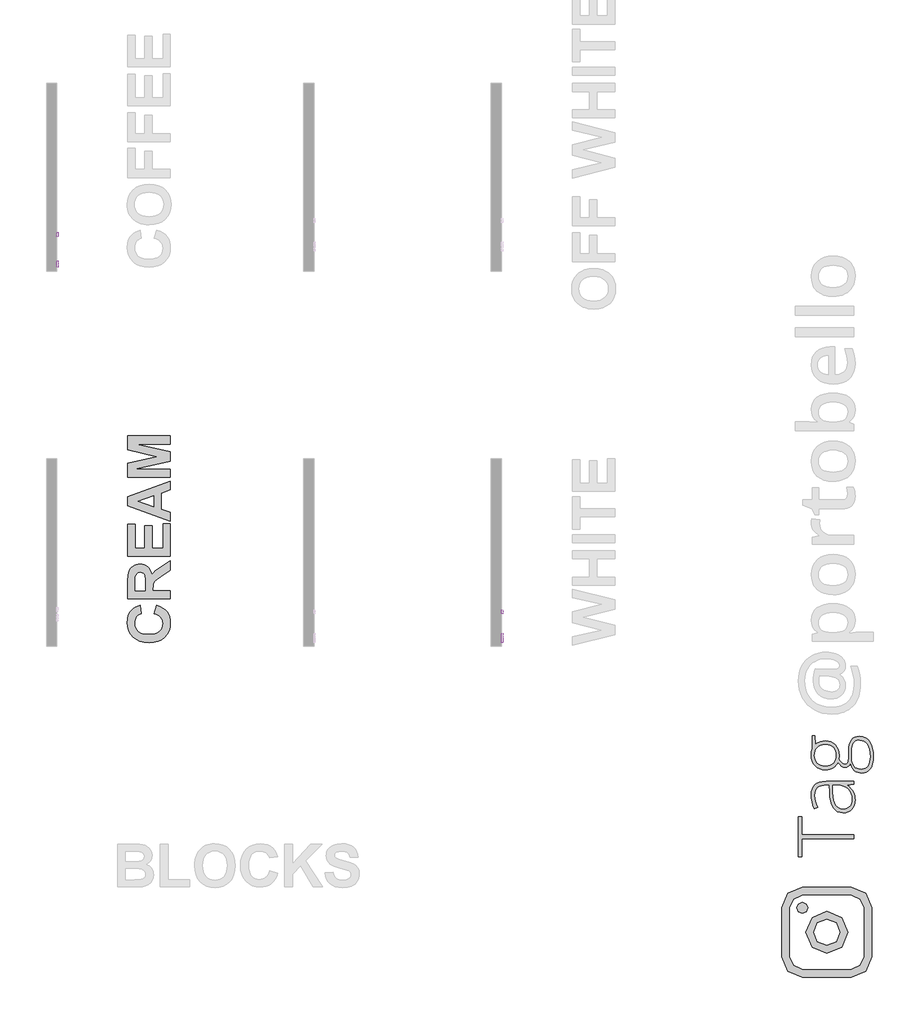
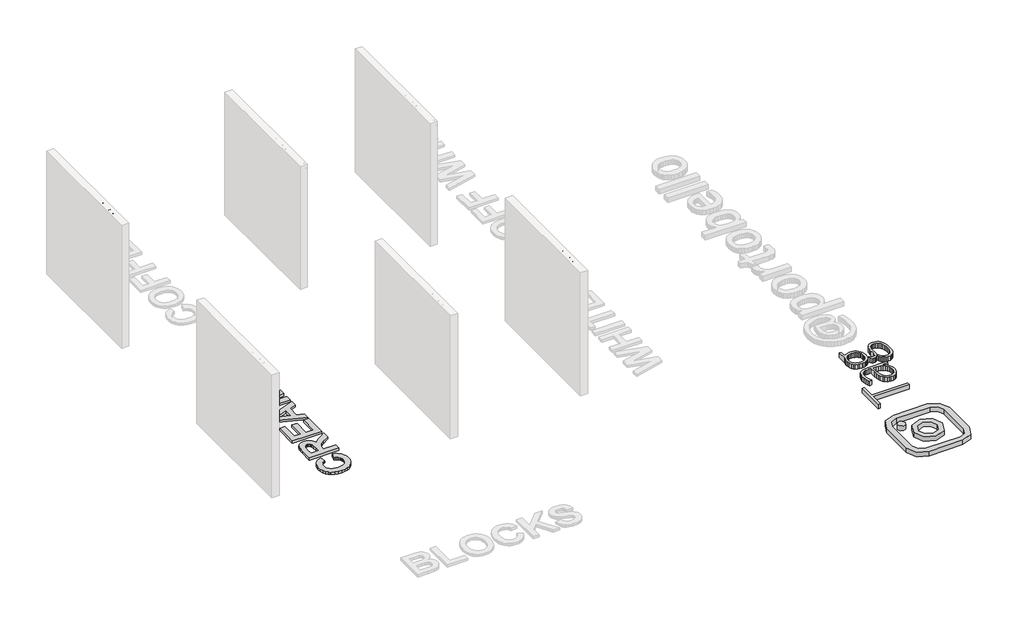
# One storey, part 4 of 8: 7 proxies.
"""IFC4 building model written with IfcOpenShell, lengths in millimetres."""

from ifc_helpers import new_model, si_unit, frame, origin, origin_with_axes, place, context, project, spatial, polyline, outline, extrude, transform, mapped, element, save
from components import generic_models_d67f6705

model = new_model("IFC4")

# Units and contexts
model_context = context("Model", 3, world=origin())
ifc_project = project(units=[si_unit("LENGTHUNIT", "METRE", prefix="MILLI")], contexts=[model_context])

# Site, building, storey
site = spatial("IfcSite", under=ifc_project)
building = spatial("IfcBuilding", under=site)
storey = spatial("IfcBuildingStorey", under=building, Name="PORTOBELLO - SHOWROOM", Elevation=0.0)

# Proxies
placement = place(None, origin())
generic_models_shape = generic_models_d67f6705(model_context)
element("IfcBuildingElementProxy", 1, Name="Blks_Instagram1 : Único 2", ObjectType="Blks_Instagram1 : Único 2", at=placement, inside=storey, context=model_context, shape_type="MappedRepresentation", body=[
    mapped(generic_models_shape, transform((28098.7687221, -13341.2406298, 0.0), x_axis=(-1.0, 0.0, 0.0), y_axis=(0.0, -1.0, 0.0), z_axis=(0.0, 0.0, 1.0))),
])
element("IfcBuildingElementProxy", 2, Name="10mm Arial", ObjectType="10mm Arial", at=placement, inside=storey, context=model_context, shape_type="SweptSolid", body=[
    extrude(outline(polyline([(-3694.2781927, 2584.5399034), (-3681.721154, 2581.3025418), (-3687.5152954, 2566.6700355), (-3696.608112, 2555.9799978), (-3708.5520141, 2549.4408954), (-3722.899412, 2547.2611945), (-3737.4644733, 2548.9105322), (-3749.0312964, 2553.858545), (-3757.8972524, 2561.9335548), (-3764.3597128, 2572.9638833), (-3769.6204253, 2599.8192689), (-3768.133569, 2614.4671037), (-3763.6729998, 2627.116113), (-3756.4717097, 2637.3646922), (-3746.7626907, 2644.8112369), (-3735.2479843, 2649.3453825), (-3722.6296318, 2650.8567644), (-3708.8616482, 2648.9008584), (-3697.4787661, 2643.0331406), (-3688.8366049, 2633.6153615), (-3683.2907838, 2621.0092718), (-3695.8478226, 2618.0171649), (-3706.1485184, 2633.455946), (-3723.1201412, 2638.2997256), (-3742.7650397, 2632.9286485), (-3753.8628132, 2618.5076743), (-3757.0633866, 2599.8437944), (-3753.274202, 2578.2123331), (-3741.4774527, 2564.3922328), (-3724.1502107, 2559.8182333), (-3713.6686396, 2561.3756004), (-3704.9345079, 2566.0477018), (-3698.3402231, 2573.7854864), (-3694.2781927, 2584.5399034)])), frame((17014.625413, 0.0, 0.0), z_axis=(1.0, 0.0, 0.0), x_axis=(0.0, 1.0, 0.0)), (0.0, 0.0, 1.0), 20.0),
    extrude(outline(polyline([(-3669.1641152, 2585.7171258), (-3666.4479198, 2603.5042202), (-3658.2993336, 2616.0060767), (-3648.2316297, 2622.1313119), (-3636.177363, 2624.173057), (-3622.9857278, 2621.6867878), (-3612.4489743, 2614.2279804), (-3605.5419898, 2602.3852458), (-3603.2396617, 2586.7471954), (-3607.3108891, 2564.4044955), (-3619.1689521, 2551.7616176), (-3636.177363, 2547.2611945), (-3649.5284137, 2549.7382666), (-3660.0529045, 2557.1694829), (-3666.8863125, 2569.2605378), (-3669.1641152, 2585.7171258)]), holes=[polyline([(-3656.6070764, 2585.7416512), (-3655.1539425, 2574.3771633), (-3650.7945409, 2566.2806937), (-3644.2339787, 2561.4338484), (-3636.177363, 2559.8182333), (-3628.1575355, 2561.4430455), (-3621.609236, 2566.3174819), (-3617.2498343, 2574.5212504), (-3615.7967004, 2586.1340587), (-3617.2590314, 2597.1674529), (-3621.6460242, 2605.1535578), (-3628.2035207, 2610.0004031), (-3636.177363, 2611.6160182), (-3644.2339787, 2610.0065345), (-3650.7945409, 2605.1780833), (-3655.1539425, 2597.1000078), (-3656.6070764, 2585.7416512)])]), frame((17014.625413, 0.0, 0.0), z_axis=(1.0, 0.0, 0.0), x_axis=(0.0, 1.0, 0.0)), (0.0, 0.0, 1.0), 20.0),
    extrude(outline(polyline([(-3585.9737334, 2548.8308244), (-3585.9737334, 2610.0463884), (-3596.9611423, 2610.0463884), (-3596.9611423, 2622.6034272), (-3585.9737334, 2622.6034272), (-3585.9737334, 2630.0346435), (-3584.6493582, 2640.5070176), (-3578.223686, 2647.9872848), (-3565.5685454, 2650.8567644), (-3554.1151526, 2649.4833383), (-3555.9545625, 2637.7111144), (-3563.1895751, 2638.2997256), (-3571.099038, 2636.215061), (-3573.4166946, 2628.4404881), (-3573.4166946, 2622.6034272), (-3559.290026, 2622.6034272), (-3559.290026, 2610.0463884), (-3573.4166946, 2610.0463884), (-3573.4166946, 2548.8308244), (-3585.9737334, 2548.8308244)])), frame((17014.625413, 0.0, 0.0), z_axis=(1.0, 0.0, 0.0), x_axis=(0.0, 1.0, 0.0)), (0.0, 0.0, 1.0), 20.0),
    extrude(outline(polyline([(-3545.1633574, 2548.8308244), (-3545.1633574, 2610.0463884), (-3556.1507663, 2610.0463884), (-3556.1507663, 2622.6034272), (-3545.1633574, 2622.6034272), (-3545.1633574, 2630.0346435), (-3543.8389822, 2640.5070176), (-3537.41331, 2647.9872848), (-3524.7581694, 2650.8567644), (-3513.3047766, 2649.4833383), (-3515.1441866, 2637.7111144), (-3522.3791991, 2638.2997256), (-3530.288662, 2636.215061), (-3532.6063186, 2628.4404881), (-3532.6063186, 2622.6034272), (-3518.47965, 2622.6034272), (-3518.47965, 2610.0463884), (-3532.6063186, 2610.0463884), (-3532.6063186, 2548.8308244), (-3545.1633574, 2548.8308244)])), frame((17014.625413, 0.0, 0.0), z_axis=(1.0, 0.0, 0.0), x_axis=(0.0, 1.0, 0.0)), (0.0, 0.0, 1.0), 20.0),
    extrude(outline(polyline([(-3455.8416089, 2570.8056422), (-3443.5298248, 2569.2360124), (-3447.9658685, 2559.9592547), (-3455.0445313, 2553.0246791), (-3464.6063975, 2548.7020657), (-3476.4920516, 2547.2611945), (-3491.2257255, 2549.7474637), (-3502.5626223, 2557.2062711), (-3509.7915035, 2569.1532389), (-3512.2011306, 2585.1039891), (-3509.7669781, 2601.5912339), (-3502.4645205, 2613.9214121), (-3491.2809078, 2621.6101458), (-3477.2032901, 2624.173057), (-3463.5640651, 2621.6162771), (-3452.665561, 2613.9459375), (-3445.5194533, 2601.6402848), (-3443.1374174, 2585.1775655), (-3443.2109938, 2581.7930512), (-3499.6440918, 2581.7930512), (-3497.4705224, 2572.3936662), (-3492.421342, 2565.483616), (-3485.1342128, 2561.234579), (-3476.2467969, 2559.8182333), (-3463.9350128, 2562.4424582), (-3455.8416089, 2570.8056422)]), holes=[polyline([(-3499.6440918, 2594.3500899), (-3455.6944561, 2594.3500899), (-3460.7221767, 2605.7299063), (-3468.0430284, 2610.1444902), (-3477.252341, 2611.6160182), (-3492.7156476, 2606.9193914), (-3497.580887, 2601.4287526), (-3499.6440918, 2594.3500899)])]), frame((17014.625413, 0.0, 0.0), z_axis=(1.0, 0.0, 0.0), x_axis=(0.0, 1.0, 0.0)), (0.0, 0.0, 1.0), 20.0),
    extrude(outline(polyline([(-3378.9297465, 2570.8056422), (-3366.6179624, 2569.2360124), (-3371.0540061, 2559.9592547), (-3378.1326688, 2553.0246791), (-3387.694535, 2548.7020657), (-3399.5801891, 2547.2611945), (-3414.313863, 2549.7474637), (-3425.6507599, 2557.2062711), (-3432.8796411, 2569.1532389), (-3435.2892681, 2585.1039891), (-3432.8551156, 2601.5912339), (-3425.552658, 2613.9214121), (-3414.3690453, 2621.6101458), (-3400.2914277, 2624.173057), (-3386.6522027, 2621.6162771), (-3375.7536986, 2613.9459375), (-3368.6075908, 2601.6402848), (-3366.2255549, 2585.1775655), (-3366.2991313, 2581.7930512), (-3422.7322294, 2581.7930512), (-3420.5586599, 2572.3936662), (-3415.5094795, 2565.483616), (-3408.2223503, 2561.234579), (-3399.3349345, 2559.8182333), (-3387.0231504, 2562.4424582), (-3378.9297465, 2570.8056422)]), holes=[polyline([(-3422.7322294, 2594.3500899), (-3378.7825937, 2594.3500899), (-3383.8103143, 2605.7299063), (-3391.131166, 2610.1444902), (-3400.3404786, 2611.6160182), (-3415.8037851, 2606.9193914), (-3420.6690245, 2601.4287526), (-3422.7322294, 2594.3500899)])]), frame((17014.625413, 0.0, 0.0), z_axis=(1.0, 0.0, 0.0), x_axis=(0.0, 1.0, 0.0)), (0.0, 0.0, 1.0), 20.0),
])
element("IfcBuildingElementProxy", 3, Name="10mm Arial", ObjectType="10mm Arial", at=placement, inside=storey, context=model_context, shape_type="SweptSolid", body=[
    extrude(outline(polyline([(-9146.934369, 2548.8308244), (-9174.3293149, 2649.2871345), (-9161.3798687, 2649.2871345), (-9145.4873665, 2583.2645791), (-9140.5822732, 2562.8839166), (-9135.3338234, 2580.9101344), (-9115.4191447, 2649.2871345), (-9096.7552648, 2649.2871345), (-9082.2852397, 2599.7211671), (-9071.51856, 2562.8839166), (-9066.7606195, 2582.6759679), (-9050.7209645, 2649.2871345), (-9037.7715183, 2649.2871345), (-9065.1909897, 2548.8308244), (-9078.6064197, 2548.8308244), (-9102.6904277, 2626.331298), (-9106.0504166, 2637.1470287), (-9109.8273384, 2624.1240061), (-9131.7776308, 2548.8308244), (-9146.934369, 2548.8308244)])), frame((23414.625413, 0.0, 0.0), z_axis=(1.0, 0.0, 0.0), x_axis=(0.0, 1.0, 0.0)), (0.0, 0.0, 1.0), 20.0),
    extrude(outline(polyline([(-9026.7841094, 2548.8308244), (-9026.7841094, 2649.2871345), (-9014.2270706, 2649.2871345), (-9014.2270706, 2612.3517822), (-9004.4352781, 2621.2177383), (-8992.3748801, 2624.173057), (-8978.2727369, 2620.9479582), (-8969.7133492, 2612.0329512), (-8967.1381752, 2595.5273123), (-8967.1381752, 2548.8308244), (-8979.695214, 2548.8308244), (-8979.695214, 2594.2274626), (-8983.692865, 2607.4712144), (-8995.0236304, 2611.6160182), (-9005.3120636, 2608.8201151), (-9012.1791941, 2601.241746), (-9014.2270706, 2588.0225196), (-9014.2270706, 2548.8308244), (-9026.7841094, 2548.8308244)])), frame((23414.625413, 0.0, 0.0), z_axis=(1.0, 0.0, 0.0), x_axis=(0.0, 1.0, 0.0)), (0.0, 0.0, 1.0), 20.0),
    extrude(outline(polyline([(23434.625413, -8937.3152081), (23434.625413, -8949.8722469), (23414.625413, -8949.8722469), (23414.625413, -8937.3152081), (23434.625413, -8937.3152081)])), frame((0.0, 0.0, 2548.8308244), z_axis=(0.0, 0.0, 1.0), x_axis=(1.0, 0.0, 0.0)), (0.0, 0.0, 1.0), 73.7726028),
    extrude(outline(polyline([(23434.625413, -8937.3152081), (23434.625413, -8949.8722469), (23414.625413, -8949.8722469), (23414.625413, -8937.3152081), (23434.625413, -8937.3152081)])), frame((0.0, 0.0, 2636.7300958), z_axis=(0.0, 0.0, 1.0), x_axis=(1.0, 0.0, 0.0)), (0.0, 0.0, 1.0), 12.5570388),
    extrude(outline(polyline([(-8891.7959426, 2559.3031985), (-8890.2263127, 2548.4629424), (-8899.6195664, 2547.2611945), (-8910.1409914, 2549.3458592), (-8915.3894412, 2554.8150382), (-8916.9100201, 2569.0643341), (-8916.9100201, 2610.0463884), (-8926.3277992, 2610.0463884), (-8926.3277992, 2622.6034272), (-8916.9100201, 2622.6034272), (-8916.9100201, 2640.531543), (-8904.3529814, 2647.9137084), (-8904.3529814, 2622.6034272), (-8891.7959426, 2622.6034272), (-8891.7959426, 2610.0463884), (-8904.3529814, 2610.0463884), (-8904.3529814, 2569.4322161), (-8903.6907938, 2562.957493), (-8901.5448155, 2560.6643619), (-8897.2651216, 2559.8182333), (-8891.7959426, 2559.3031985)])), frame((23414.625413, 0.0, 0.0), z_axis=(1.0, 0.0, 0.0), x_axis=(0.0, 1.0, 0.0)), (0.0, 0.0, 1.0), 20.0),
    extrude(outline(polyline([(-8827.5882717, 2570.8056422), (-8815.2764876, 2569.2360124), (-8819.7125313, 2559.9592547), (-8826.791194, 2553.0246791), (-8836.3530602, 2548.7020657), (-8848.2387144, 2547.2611945), (-8862.9723883, 2549.7474637), (-8874.3092851, 2557.2062711), (-8881.5381663, 2569.1532389), (-8883.9477934, 2585.1039891), (-8881.5136408, 2601.5912339), (-8874.2111832, 2613.9214121), (-8863.0275706, 2621.6101458), (-8848.9499529, 2624.173057), (-8835.3107279, 2621.6162771), (-8824.4122238, 2613.9459375), (-8817.2661161, 2601.6402848), (-8814.8840801, 2585.1775655), (-8814.9576565, 2581.7930512), (-8871.3907546, 2581.7930512), (-8869.2171851, 2572.3936662), (-8864.1680048, 2565.483616), (-8856.8808756, 2561.234579), (-8847.9934597, 2559.8182333), (-8835.6816756, 2562.4424582), (-8827.5882717, 2570.8056422)]), holes=[polyline([(-8871.3907546, 2594.3500899), (-8827.4411189, 2594.3500899), (-8832.4688395, 2605.7299063), (-8839.7896912, 2610.1444902), (-8848.9990038, 2611.6160182), (-8864.4623103, 2606.9193914), (-8869.3275497, 2601.4287526), (-8871.3907546, 2594.3500899)])]), frame((23414.625413, 0.0, 0.0), z_axis=(1.0, 0.0, 0.0), x_axis=(0.0, 1.0, 0.0)), (0.0, 0.0, 1.0), 20.0),
])
element("IfcBuildingElementProxy", 4, Name="10mm Arial Narrow", ObjectType="10mm Arial Narrow", at=placement, inside=storey, context=model_context, shape_type="SweptSolid", body=[
    extrude(outline(polyline([(-3330.3882863, 2548.8308244), (-3330.3882863, 2649.5494281), (-3299.0914016, 2649.5494281), (-3282.7957001, 2647.6711074), (-3271.322714, 2638.1906642), (-3267.0330356, 2621.1715554), (-3268.819344, 2609.0957299), (-3274.1782692, 2599.4693361), (-3283.922058, 2593.1680777), (-3298.8629572, 2591.0676582), (-3320.6413247, 2591.0676582), (-3320.6413247, 2548.8308244), (-3330.3882863, 2548.8308244)]), holes=[polyline([(-3320.6413247, 2602.4391135), (-3297.6699697, 2602.4391135), (-3281.8057743, 2606.9699277), (-3276.7799972, 2620.6385184), (-3279.2548117, 2630.8042949), (-3285.2324405, 2636.6042447), (-3297.8984142, 2638.1779729), (-3320.6413247, 2638.1779729), (-3320.6413247, 2602.4391135)])]), frame((17014.625413, 0.0, 0.0), z_axis=(1.0, 0.0, 0.0), x_axis=(0.0, 1.0, 0.0)), (0.0, 0.0, 1.0), 20.0),
    extrude(outline(polyline([(-3258.9105675, 2585.3819306), (-3256.9560987, 2601.9727061), (-3251.092692, 2613.9247909), (-3242.2341253, 2621.1493455), (-3231.2941762, 2623.5575304), (-3220.4811406, 2621.1493455), (-3211.5971912, 2613.9247909), (-3205.6576364, 2602.1630765), (-3203.6777848, 2586.143412), (-3205.6227352, 2568.9815254), (-3211.4575863, 2556.8390702), (-3220.3066345, 2549.6145156), (-3231.2941762, 2547.2063308), (-3242.1548044, 2549.6208613), (-3251.0292353, 2556.8644529), (-3256.9402345, 2568.8228834), (-3258.9105675, 2585.3819306)]), holes=[polyline([(-3249.1636059, 2585.4073133), (-3247.859569, 2572.8555619), (-3243.9474584, 2563.9843038), (-3238.1062617, 2558.7110453), (-3231.0149663, 2556.9532924), (-3224.2948932, 2558.7269095), (-3218.6028199, 2564.0477606), (-3214.7192648, 2572.9348829), (-3213.4247465, 2585.4073133), (-3214.7287833, 2597.9209906), (-3218.6408939, 2606.7795573), (-3224.4820907, 2612.0528159), (-3231.573386, 2613.8105687), (-3238.3410518, 2612.0432974), (-3244.0236066, 2606.7414833), (-3247.8786061, 2597.873398), (-3249.1636059, 2585.4073133)])]), frame((17014.625413, 0.0, 0.0), z_axis=(1.0, 0.0, 0.0), x_axis=(0.0, 1.0, 0.0)), (0.0, 0.0, 1.0), 20.0),
    extrude(outline(polyline([(-3132.200066, 2556.9532924), (-3130.5755724, 2547.2063308), (-3137.9365591, 2547.2063308), (-3146.2113234, 2549.3257873), (-3150.5263846, 2555.1257371), (-3151.6939893, 2569.7715623), (-3151.6939893, 2612.1860751), (-3159.8164574, 2612.1860751), (-3159.8164574, 2615.4350624), (-3161.440951, 2610.5615815), (-3169.0049994, 2612.1860751), (-3175.084159, 2609.8635569), (-3178.9550227, 2603.3782738), (-3180.9348743, 2587.9709673), (-3180.9348743, 2548.8308244), (-3190.681836, 2548.8308244), (-3190.681836, 2621.9330368), (-3180.9348743, 2621.9330368), (-3180.9348743, 2612.2368406), (-3174.690727, 2621.3238517), (-3168.2942834, 2623.5575304), (-3159.8164574, 2621.9330368), (-3151.6939893, 2621.9330368), (-3151.6939893, 2638.1779729), (-3141.9470277, 2646.3004409), (-3141.9470277, 2621.9330368), (-3132.200066, 2621.9330368), (-3132.200066, 2612.1860751), (-3141.9470277, 2612.1860751), (-3141.9470277, 2567.5378836), (-3141.0840155, 2559.5423291), (-3136.4643618, 2556.9532924), (-3132.200066, 2556.9532924)])), frame((17014.625413, 0.0, 0.0), z_axis=(1.0, 0.0, 0.0), x_axis=(0.0, 1.0, 0.0)), (0.0, 0.0, 1.0), 20.0),
    extrude(outline(polyline([(-3125.7020916, 2585.3819306), (-3123.7476227, 2601.9727061), (-3117.8842161, 2613.9247909), (-3109.0256494, 2621.1493455), (-3098.0857003, 2623.5575304), (-3087.2726647, 2621.1493455), (-3078.3887152, 2613.9247909), (-3072.4491605, 2602.1630765), (-3070.4693089, 2586.143412), (-3072.4142593, 2568.9815254), (-3078.2491103, 2556.8390702), (-3087.0981585, 2549.6145156), (-3098.0857003, 2547.2063308), (-3108.9463284, 2549.6208613), (-3117.8207593, 2556.8644529), (-3123.7317585, 2568.8228834), (-3125.7020916, 2585.3819306)]), holes=[polyline([(-3115.95513, 2585.4073133), (-3114.6510931, 2572.8555619), (-3110.7389825, 2563.9843038), (-3104.8977858, 2558.7110453), (-3097.8064904, 2556.9532924), (-3091.0864172, 2558.7269095), (-3085.3943439, 2564.0477606), (-3081.5107889, 2572.9348829), (-3080.2162706, 2585.4073133), (-3081.5203074, 2597.9209906), (-3085.432418, 2606.7795573), (-3091.2736148, 2612.0528159), (-3098.3649101, 2613.8105687), (-3105.1325759, 2612.0432974), (-3110.8151306, 2606.7414833), (-3114.6701301, 2597.873398), (-3115.95513, 2585.4073133)])]), frame((17014.625413, 0.0, 0.0), z_axis=(1.0, 0.0, 0.0), x_axis=(0.0, 1.0, 0.0)), (0.0, 0.0, 1.0), 20.0),
    extrude(outline(polyline([(-3047.7263984, 2548.8308244), (-3057.47336, 2548.8308244), (-3057.47336, 2649.5494281), (-3047.7263984, 2649.5494281), (-3047.7263984, 2614.140544), (-3040.3273376, 2621.2223208), (-3031.1261043, 2623.5575304), (-3018.2443776, 2619.3566915), (-3008.9669962, 2606.6272611), (-3005.4895645, 2585.9403503), (-3007.4218235, 2569.4860068), (-3013.2186005, 2557.2832677), (-3021.5917229, 2549.725565), (-3031.2530179, 2547.2063308), (-3040.5938561, 2549.8207502), (-3047.7263984, 2557.5878602), (-3047.7263984, 2548.8308244)]), holes=[polyline([(-3047.7263984, 2585.9403503), (-3045.6450159, 2568.692797), (-3039.7562266, 2559.9611439), (-3031.3037833, 2556.9532924), (-3025.3610557, 2558.7427737), (-3020.1226984, 2564.1112174), (-3015.2365262, 2585.5342269), (-3019.9450194, 2606.9699277), (-3025.1897224, 2612.1004085), (-3031.506845, 2613.8105687), (-3037.4844738, 2612.0210875), (-3042.7767694, 2606.6526438), (-3047.7263984, 2585.9403503)])]), frame((17014.625413, 0.0, 0.0), z_axis=(1.0, 0.0, 0.0), x_axis=(0.0, 1.0, 0.0)), (0.0, 0.0, 1.0), 20.0),
    extrude(outline(polyline([(-2953.5057691, 2571.5737349), (-2943.7588074, 2569.9492413), (-2947.4583378, 2560.0626747), (-2953.2773246, 2552.9428238), (-2960.9809779, 2548.640454), (-2970.3345075, 2547.2063308), (-2981.9280615, 2549.6208613), (-2991.0721838, 2556.8644529), (-2997.0117385, 2568.6705872), (-2998.9915901, 2584.7727455), (-2997.00222, 2601.4396692), (-2991.0341097, 2613.6201984), (-2982.0200739, 2621.0731974), (-2970.8929272, 2623.5575304), (-2960.209978, 2621.1588641), (-2951.4624607, 2613.962865), (-2945.6276096, 2602.2233604), (-2943.6826593, 2586.1941774), (-2943.7588074, 2582.9451902), (-2989.2446285, 2582.9451902), (-2983.2416169, 2563.5020323), (-2977.3115807, 2558.5904774), (-2970.207594, 2556.9532924), (-2960.0291262, 2560.608403), (-2953.5057691, 2571.5737349)]), holes=[polyline([(-2988.5846779, 2592.6921518), (-2953.5057691, 2592.6921518), (-2957.7700648, 2606.9572363), (-2963.5953973, 2612.0972356), (-2970.8167791, 2613.8105687), (-2983.0258639, 2608.0994584), (-2988.5846779, 2592.6921518)])]), frame((17014.625413, 0.0, 0.0), z_axis=(1.0, 0.0, 0.0), x_axis=(0.0, 1.0, 0.0)), (0.0, 0.0, 1.0), 20.0),
    extrude(outline(polyline([(17034.625413, -2921.0158969), (17034.625413, -2930.7628585), (17014.625413, -2930.7628585), (17014.625413, -2921.0158969), (17034.625413, -2921.0158969)])), frame((0.0, 0.0, 2548.8308244), z_axis=(0.0, 0.0, 1.0), x_axis=(1.0, 0.0, 0.0)), (0.0, 0.0, 1.0), 100.7186038),
    extrude(outline(polyline([(17034.625413, -2895.0239991), (17034.625413, -2904.7709608), (17014.625413, -2904.7709608), (17014.625413, -2895.0239991), (17034.625413, -2895.0239991)])), frame((0.0, 0.0, 2548.8308244), z_axis=(0.0, 0.0, 1.0), x_axis=(1.0, 0.0, 0.0)), (0.0, 0.0, 1.0), 100.7186038),
    extrude(outline(polyline([(-2883.6525439, 2585.3819306), (-2881.698075, 2601.9727061), (-2875.8346684, 2613.9247909), (-2866.9761017, 2621.1493455), (-2856.0361525, 2623.5575304), (-2845.2231169, 2621.1493455), (-2836.3391675, 2613.9247909), (-2830.3996128, 2602.1630765), (-2828.4197612, 2586.143412), (-2830.3647115, 2568.9815254), (-2836.1995626, 2556.8390702), (-2845.0486108, 2549.6145156), (-2856.0361525, 2547.2063308), (-2866.8967807, 2549.6208613), (-2875.7712116, 2556.8644529), (-2881.6822108, 2568.8228834), (-2883.6525439, 2585.3819306)]), holes=[polyline([(-2873.9055822, 2585.4073133), (-2872.6015454, 2572.8555619), (-2868.6894348, 2563.9843038), (-2862.848238, 2558.7110453), (-2855.7569427, 2556.9532924), (-2849.0368695, 2558.7269095), (-2843.3447962, 2564.0477606), (-2839.4612412, 2572.9348829), (-2838.1667228, 2585.4073133), (-2839.4707597, 2597.9209906), (-2843.3828703, 2606.7795573), (-2849.224067, 2612.0528159), (-2856.3153624, 2613.8105687), (-2863.0830281, 2612.0432974), (-2868.7655829, 2606.7414833), (-2872.6205824, 2597.873398), (-2873.9055822, 2585.4073133)])]), frame((17014.625413, 0.0, 0.0), z_axis=(1.0, 0.0, 0.0), x_axis=(0.0, 1.0, 0.0)), (0.0, 0.0, 1.0), 20.0),
])
element("IfcBuildingElementProxy", 5, Name="10mm Arial Narrow", ObjectType="10mm Arial Narrow", at=placement, inside=storey, context=model_context, shape_type="SweptSolid", body=[
    extrude(outline(polyline([(-8760.3882863, 2548.8308244), (-8760.3882863, 2649.5494281), (-8729.0914016, 2649.5494281), (-8712.7957001, 2647.6711074), (-8701.322714, 2638.1906642), (-8697.0330356, 2621.1715554), (-8698.819344, 2609.0957299), (-8704.1782692, 2599.4693361), (-8713.922058, 2593.1680777), (-8728.8629572, 2591.0676582), (-8750.6413247, 2591.0676582), (-8750.6413247, 2548.8308244), (-8760.3882863, 2548.8308244)]), holes=[polyline([(-8750.6413247, 2602.4391135), (-8727.6699697, 2602.4391135), (-8711.8057743, 2606.9699277), (-8706.7799972, 2620.6385184), (-8709.2548117, 2630.8042949), (-8715.2324405, 2636.6042447), (-8727.8984142, 2638.1779729), (-8750.6413247, 2638.1779729), (-8750.6413247, 2602.4391135)])]), frame((23414.625413, 0.0, 0.0), z_axis=(1.0, 0.0, 0.0), x_axis=(0.0, 1.0, 0.0)), (0.0, 0.0, 1.0), 20.0),
    extrude(outline(polyline([(-8688.9105675, 2585.3819306), (-8686.9560987, 2601.9727061), (-8681.092692, 2613.9247909), (-8672.2341253, 2621.1493455), (-8661.2941762, 2623.5575304), (-8650.4811406, 2621.1493455), (-8641.5971912, 2613.9247909), (-8635.6576364, 2602.1630765), (-8633.6777848, 2586.143412), (-8635.6227352, 2568.9815254), (-8641.4575863, 2556.8390702), (-8650.3066345, 2549.6145156), (-8661.2941762, 2547.2063308), (-8672.1548044, 2549.6208613), (-8681.0292353, 2556.8644529), (-8686.9402345, 2568.8228834), (-8688.9105675, 2585.3819306)]), holes=[polyline([(-8679.1636059, 2585.4073133), (-8677.859569, 2572.8555619), (-8673.9474584, 2563.9843038), (-8668.1062617, 2558.7110453), (-8661.0149663, 2556.9532924), (-8654.2948932, 2558.7269095), (-8648.6028199, 2564.0477606), (-8644.7192648, 2572.9348829), (-8643.4247465, 2585.4073133), (-8644.7287833, 2597.9209906), (-8648.6408939, 2606.7795573), (-8654.4820907, 2612.0528159), (-8661.573386, 2613.8105687), (-8668.3410518, 2612.0432974), (-8674.0236066, 2606.7414833), (-8677.8786061, 2597.873398), (-8679.1636059, 2585.4073133)])]), frame((23414.625413, 0.0, 0.0), z_axis=(1.0, 0.0, 0.0), x_axis=(0.0, 1.0, 0.0)), (0.0, 0.0, 1.0), 20.0),
    extrude(outline(polyline([(-8562.200066, 2556.9532924), (-8560.5755724, 2547.2063308), (-8567.9365591, 2547.2063308), (-8576.2113234, 2549.3257873), (-8580.5263846, 2555.1257371), (-8581.6939893, 2569.7715623), (-8581.6939893, 2612.1860751), (-8589.8164574, 2612.1860751), (-8589.8164574, 2615.4350624), (-8591.440951, 2610.5615815), (-8599.0049994, 2612.1860751), (-8605.084159, 2609.8635569), (-8608.9550227, 2603.3782738), (-8610.9348743, 2587.9709673), (-8610.9348743, 2548.8308244), (-8620.681836, 2548.8308244), (-8620.681836, 2621.9330368), (-8610.9348743, 2621.9330368), (-8610.9348743, 2612.2368406), (-8604.690727, 2621.3238517), (-8598.2942834, 2623.5575304), (-8589.8164574, 2621.9330368), (-8581.6939893, 2621.9330368), (-8581.6939893, 2638.1779729), (-8571.9470277, 2646.3004409), (-8571.9470277, 2621.9330368), (-8562.200066, 2621.9330368), (-8562.200066, 2612.1860751), (-8571.9470277, 2612.1860751), (-8571.9470277, 2567.5378836), (-8571.0840155, 2559.5423291), (-8566.4643618, 2556.9532924), (-8562.200066, 2556.9532924)])), frame((23414.625413, 0.0, 0.0), z_axis=(1.0, 0.0, 0.0), x_axis=(0.0, 1.0, 0.0)), (0.0, 0.0, 1.0), 20.0),
    extrude(outline(polyline([(-8555.7020916, 2585.3819306), (-8553.7476227, 2601.9727061), (-8547.8842161, 2613.9247909), (-8539.0256494, 2621.1493455), (-8528.0857003, 2623.5575304), (-8517.2726647, 2621.1493455), (-8508.3887152, 2613.9247909), (-8502.4491605, 2602.1630765), (-8500.4693089, 2586.143412), (-8502.4142593, 2568.9815254), (-8508.2491103, 2556.8390702), (-8517.0981585, 2549.6145156), (-8528.0857003, 2547.2063308), (-8538.9463284, 2549.6208613), (-8547.8207593, 2556.8644529), (-8553.7317585, 2568.8228834), (-8555.7020916, 2585.3819306)]), holes=[polyline([(-8545.95513, 2585.4073133), (-8544.6510931, 2572.8555619), (-8540.7389825, 2563.9843038), (-8534.8977858, 2558.7110453), (-8527.8064904, 2556.9532924), (-8521.0864172, 2558.7269095), (-8515.3943439, 2564.0477606), (-8511.5107889, 2572.9348829), (-8510.2162706, 2585.4073133), (-8511.5203074, 2597.9209906), (-8515.432418, 2606.7795573), (-8521.2736148, 2612.0528159), (-8528.3649101, 2613.8105687), (-8535.1325759, 2612.0432974), (-8540.8151306, 2606.7414833), (-8544.6701301, 2597.873398), (-8545.95513, 2585.4073133)])]), frame((23414.625413, 0.0, 0.0), z_axis=(1.0, 0.0, 0.0), x_axis=(0.0, 1.0, 0.0)), (0.0, 0.0, 1.0), 20.0),
    extrude(outline(polyline([(-8477.7263984, 2548.8308244), (-8487.47336, 2548.8308244), (-8487.47336, 2649.5494281), (-8477.7263984, 2649.5494281), (-8477.7263984, 2614.140544), (-8470.3273376, 2621.2223208), (-8461.1261043, 2623.5575304), (-8448.2443776, 2619.3566915), (-8438.9669962, 2606.6272611), (-8435.4895645, 2585.9403503), (-8437.4218235, 2569.4860068), (-8443.2186005, 2557.2832677), (-8451.5917229, 2549.725565), (-8461.2530179, 2547.2063308), (-8470.5938561, 2549.8207502), (-8477.7263984, 2557.5878602), (-8477.7263984, 2548.8308244)]), holes=[polyline([(-8477.7263984, 2585.9403503), (-8475.6450159, 2568.692797), (-8469.7562266, 2559.9611439), (-8461.3037833, 2556.9532924), (-8455.3610557, 2558.7427737), (-8450.1226984, 2564.1112174), (-8445.2365262, 2585.5342269), (-8449.9450194, 2606.9699277), (-8455.1897224, 2612.1004085), (-8461.506845, 2613.8105687), (-8467.4844738, 2612.0210875), (-8472.7767694, 2606.6526438), (-8477.7263984, 2585.9403503)])]), frame((23414.625413, 0.0, 0.0), z_axis=(1.0, 0.0, 0.0), x_axis=(0.0, 1.0, 0.0)), (0.0, 0.0, 1.0), 20.0),
    extrude(outline(polyline([(-8383.5057691, 2571.5737349), (-8373.7588074, 2569.9492413), (-8377.4583378, 2560.0626747), (-8383.2773246, 2552.9428238), (-8390.9809779, 2548.640454), (-8400.3345075, 2547.2063308), (-8411.9280615, 2549.6208613), (-8421.0721838, 2556.8644529), (-8427.0117385, 2568.6705872), (-8428.9915901, 2584.7727455), (-8427.00222, 2601.4396692), (-8421.0341097, 2613.6201984), (-8412.0200739, 2621.0731974), (-8400.8929272, 2623.5575304), (-8390.209978, 2621.1588641), (-8381.4624607, 2613.962865), (-8375.6276096, 2602.2233604), (-8373.6826593, 2586.1941774), (-8373.7588074, 2582.9451902), (-8419.2446285, 2582.9451902), (-8413.2416169, 2563.5020323), (-8407.3115807, 2558.5904774), (-8400.207594, 2556.9532924), (-8390.0291262, 2560.608403), (-8383.5057691, 2571.5737349)]), holes=[polyline([(-8418.5846779, 2592.6921518), (-8383.5057691, 2592.6921518), (-8387.7700648, 2606.9572363), (-8393.5953973, 2612.0972356), (-8400.8167791, 2613.8105687), (-8413.0258639, 2608.0994584), (-8418.5846779, 2592.6921518)])]), frame((23414.625413, 0.0, 0.0), z_axis=(1.0, 0.0, 0.0), x_axis=(0.0, 1.0, 0.0)), (0.0, 0.0, 1.0), 20.0),
    extrude(outline(polyline([(23434.625413, -8351.0158969), (23434.625413, -8360.7628585), (23414.625413, -8360.7628585), (23414.625413, -8351.0158969), (23434.625413, -8351.0158969)])), frame((0.0, 0.0, 2548.8308244), z_axis=(0.0, 0.0, 1.0), x_axis=(1.0, 0.0, 0.0)), (0.0, 0.0, 1.0), 100.7186038),
    extrude(outline(polyline([(23434.625413, -8325.0239991), (23434.625413, -8334.7709608), (23414.625413, -8334.7709608), (23414.625413, -8325.0239991), (23434.625413, -8325.0239991)])), frame((0.0, 0.0, 2548.8308244), z_axis=(0.0, 0.0, 1.0), x_axis=(1.0, 0.0, 0.0)), (0.0, 0.0, 1.0), 100.7186038),
    extrude(outline(polyline([(-8313.6525439, 2585.3819306), (-8311.698075, 2601.9727061), (-8305.8346684, 2613.9247909), (-8296.9761017, 2621.1493455), (-8286.0361525, 2623.5575304), (-8275.2231169, 2621.1493455), (-8266.3391675, 2613.9247909), (-8260.3996128, 2602.1630765), (-8258.4197612, 2586.143412), (-8260.3647115, 2568.9815254), (-8266.1995626, 2556.8390702), (-8275.0486108, 2549.6145156), (-8286.0361525, 2547.2063308), (-8296.8967807, 2549.6208613), (-8305.7712116, 2556.8644529), (-8311.6822108, 2568.8228834), (-8313.6525439, 2585.3819306)]), holes=[polyline([(-8303.9055822, 2585.4073133), (-8302.6015454, 2572.8555619), (-8298.6894348, 2563.9843038), (-8292.848238, 2558.7110453), (-8285.7569427, 2556.9532924), (-8279.0368695, 2558.7269095), (-8273.3447962, 2564.0477606), (-8269.4612412, 2572.9348829), (-8268.1667228, 2585.4073133), (-8269.4707597, 2597.9209906), (-8273.3828703, 2606.7795573), (-8279.224067, 2612.0528159), (-8286.3153624, 2613.8105687), (-8293.0830281, 2612.0432974), (-8298.7655829, 2606.7414833), (-8302.6205824, 2597.873398), (-8303.9055822, 2585.4073133)])]), frame((23414.625413, 0.0, 0.0), z_axis=(1.0, 0.0, 0.0), x_axis=(0.0, 1.0, 0.0)), (0.0, 0.0, 1.0), 20.0),
])
element("IfcBuildingElementProxy", 6, Name="600mm Arial", ObjectType="600mm Arial", at=placement, inside=storey, context=model_context, shape_type="SweptSolid", body=[
    extrude(outline(polyline([(18414.7223008, -8754.965328), (18453.5893256, -8638.3642537), (18499.6917279, -8654.4671202), (18539.464954, -8675.1436942), (18572.909004, -8700.3939756), (18600.0238779, -8730.2179646), (18620.9803779, -8764.4923038), (18635.9493065, -8803.093636), (18644.9306637, -8846.0219612), (18647.9244494, -8893.2772794), (18642.8098678, -8951.6632177), (18627.4661229, -9004.6024587), (18601.8932147, -9052.0950024), (18566.0911433, -9094.1408488), (18521.4168385, -9128.5480343), (18469.2272301, -9153.1245953), (18409.522318, -9167.870532), (18342.3021023, -9172.7858442), (18271.4191251, -9167.8278314), (18208.9244412, -9152.953793), (18154.8180508, -9128.163729), (18130.9104656, -9112.0501874), (18109.0999538, -9093.4576394), (18072.7664973, -9050.6669049), (18046.8140284, -9001.6229065), (18031.242547, -8946.3256441), (18026.0520532, -8884.7751177), (18030.3316011, -8830.9533979), (18043.1702448, -8782.4455291), (18064.5679843, -8739.2515114), (18094.5248195, -8701.3713447), (18116.928395, -8681.6626507), (18143.7538538, -8664.5919042), (18175.0011957, -8650.1591052), (18210.6704208, -8638.3642537), (18230.1039332, -8754.965328), (18208.7488943, -8762.3145738), (18189.7755994, -8772.8236631), (18173.1840484, -8786.492596), (18158.9742414, -8803.3213725), (18147.5826732, -8822.7216733), (18139.4458388, -8844.1051792), (18134.5637382, -8867.4718903), (18132.9363713, -8892.8218065), (18135.892201, -8927.470962), (18144.7596899, -8958.6945813), (18159.5388381, -8986.4926646), (18180.2296456, -9010.8652117), (18207.5342998, -9030.6925184), (18242.1549883, -9044.8548804), (18284.0917109, -9053.3522975), (18333.3444677, -9056.1847699), (18385.4771421, -9053.4376987), (18429.5251716, -9045.1964851), (18465.4885563, -9031.461129), (18493.3672962, -9012.2316306), (18514.2241616, -8988.599227), (18529.1219225, -8961.6551555), (18538.0605791, -8931.3994161), (18541.0401313, -8897.8320089), (18539.1375828, -8872.8426755), (18533.4299375, -8849.6467668), (18523.9171952, -8828.2442828), (18510.599356, -8808.6352235), (18493.1917494, -8791.2465949), (18471.4097046, -8776.5054028), (18445.2532218, -8764.4116472), (18414.7223008, -8754.965328)])), origin_with_axes(), (0.0, 0.0, 1.0), 50.0),
    extrude(outline(polyline([(18647.9244494, -8541.1966918), (18035.7688094, -8541.1966918), (18035.7688094, -8283.7026528), (18039.906022, -8199.8197185), (18045.0775378, -8167.8417221), (18052.3176598, -8142.5060394), (18062.2052183, -8121.59224), (18075.3190436, -8102.8798931), (18091.6591355, -8086.3689988), (18111.2254942, -8072.059557), (18133.1735968, -8060.501931), (18156.6589206, -8052.2464839), (18181.6814656, -8047.2932156), (18208.2412318, -8045.6421261), (18241.3484216, -8048.0286146), (18271.4381031, -8055.18808), (18298.5102764, -8067.1205223), (18322.5649413, -8083.8259415), (18343.0232678, -8105.2853596), (18359.3064257, -8131.4797985), (18371.4144148, -8162.4092583), (18379.3472353, -8198.0737389), (18403.715038, -8164.2548726), (18430.3602053, -8136.8885397), (18468.9615375, -8108.5733049), (18529.1978347, -8071.9077327), (18647.9244494, -7997.0583452), (18647.9244494, -8133.2447562), (18508.0942548, -8221.9101564), (18454.4053813, -8264.7435914), (18425.1222664, -8291.5216051), (18410.7179345, -8310.8412492), (18401.6654097, -8331.2995757), (18396.8829438, -8358.4571501), (18395.2887884, -8397.874538), (18395.2887884, -8424.5956176), (18647.9244494, -8424.5956176), (18647.9244494, -8541.1966918)]), holes=[polyline([(18288.4044704, -8424.5956176), (18288.4044704, -8328.4908259), (18286.6395127, -8252.6356023), (18281.3446397, -8211.8138394), (18271.7417517, -8191.0518643), (18257.0527492, -8175.3760037), (18237.6761709, -8165.5264013), (18214.0105558, -8162.2432004), (18187.8018833, -8166.5701934), (18167.1727544, -8179.5511724), (18152.6165982, -8200.4270158), (18144.6268436, -8228.438602), (18142.6531275, -8323.1769748), (18142.6531275, -8424.5956176), (18288.4044704, -8424.5956176)])]), origin_with_axes(), (0.0, 0.0, 1.0), 50.0),
    extrude(outline(polyline([(18647.9244494, -7929.0410519), (18035.7688094, -7929.0410519), (18035.7688094, -7472.3535109), (18142.6531275, -7472.3535109), (18142.6531275, -7812.4399776), (18278.6877142, -7812.4399776), (18278.6877142, -7491.7870233), (18385.5720323, -7491.7870233), (18385.5720323, -7812.4399776), (18541.0401313, -7812.4399776), (18541.0401313, -7462.6367547), (18647.9244494, -7462.6367547), (18647.9244494, -7929.0410519)])), origin_with_axes(), (0.0, 0.0, 1.0), 50.0),
    extrude(outline(polyline([(18647.9244494, -6850.4811148), (18647.9244494, -6973.0033374), (18511.8898627, -7020.979821), (18511.8898627, -7252.2082535), (18647.9244494, -7299.5774399), (18647.9244494, -7423.76973), (18035.7688094, -7200.2843376), (18035.7688094, -7076.0920476), (18647.9244494, -6850.4811148)]), holes=[polyline([(18405.0055446, -7058.3286026), (18181.5201523, -7137.1254224), (18405.0055446, -7214.8594719), (18405.0055446, -7058.3286026)])]), origin_with_axes(), (0.0, 0.0, 1.0), 50.0),
    extrude(outline(polyline([(18647.9244494, -6792.1805776), (18035.7688094, -6792.1805776), (18035.7688094, -6592.3797785), (18453.285677, -6495.8195138), (18035.7688094, -6399.2592492), (18035.7688094, -6199.45845), (18647.9244494, -6199.45845), (18647.9244494, -6316.0595243), (18166.0340721, -6320.9179024), (18647.9244494, -6427.4985719), (18647.9244494, -6563.9886315), (18166.0340721, -6670.7211253), (18647.9244494, -6675.5795033), (18647.9244494, -6792.1805776)])), origin_with_axes(), (0.0, 0.0, 1.0), 50.0),
])
element("IfcBuildingElementProxy", 7, Name="80mm OpenSans Light", ObjectType="80mm OpenSans Light", at=placement, inside=storey, context=model_context, shape_type="SweptSolid", body=[
    extrude(outline(polyline([(28490.4817068, -11939.7446899), (28490.4817068, -11996.2308367), (27736.6921062, -11996.2308367), (27736.6921062, -12254.8652787), (27690.5417225, -12254.8652787), (27690.5417225, -11681.3506145), (27736.6921062, -11681.3506145), (27736.6921062, -11939.7446899), (28490.4817068, -11939.7446899)])), origin_with_axes(), (0.0, 0.0, 1.0), 100.0),
    extrude(outline(polyline([(28490.4817068, -11209.7513809), (28394.8158073, -11223.4522761), (28394.8158073, -11227.7788746), (28422.9912775, -11250.6512571), (28446.7049431, -11273.8391208), (28465.956804, -11297.3424656), (28480.7468603, -11321.1612916), (28491.7361199, -11346.2270192), (28499.5855911, -11373.471069), (28504.2952738, -11402.8934409), (28505.8651681, -11434.4941349), (28502.9732576, -11476.3780118), (28494.2975263, -11513.3343738), (28479.8379741, -11545.3632208), (28459.5946011, -11572.4645529), (28434.2434381, -11594.0224307), (28404.4605164, -11609.4209149), (28370.2458357, -11618.6600054), (28331.5993962, -11621.7397022), (28289.3775039, -11617.1502028), (28252.1281951, -11603.3817045), (28219.8514701, -11580.4342074), (28192.5473287, -11548.3077114), (28170.6514353, -11507.4979727), (28154.5994546, -11458.5007473), (28144.3913863, -11401.3160352), (28140.0272305, -11335.9438364), (28136.6620984, -11221.2889769), (28096.2805126, -11221.2889769), (28055.6585603, -11223.467299), (28020.3246728, -11230.0022654), (27990.27885, -11240.8938762), (27965.5210921, -11256.1421312), (27946.1715823, -11276.2427866), (27932.3505038, -11301.6915985), (27924.0578568, -11332.4885668), (27921.2936411, -11368.6336915), (27924.17804, -11410.8330495), (27932.831237, -11453.7835531), (27947.2532319, -11497.4852023), (27967.4440248, -11541.937997), (27920.3321747, -11562.3691565), (27900.5620234, -11513.0038697), (27886.4404867, -11463.9390412), (27877.9675647, -11415.1746709), (27875.1432574, -11366.7107589), (27878.3806948, -11320.32752), (27888.0930069, -11280.2088352), (27904.2801939, -11246.3547045), (27926.9422557, -11218.7651277), (27956.4547651, -11197.3649905), (27993.1932949, -11182.0791782), (28037.157845, -11172.9076908), (28088.3484154, -11169.8505283), (28490.4817068, -11169.8505283), (28490.4817068, -11209.7513809)]), holes=[polyline([(28459.7147844, -11431.609736), (28456.1468429, -11385.8499479), (28445.4430186, -11345.1979498), (28427.6033113, -11309.6537415), (28402.6277212, -11279.2173231), (28371.3124624, -11254.820115), (28334.4537494, -11237.3935378), (28292.0515821, -11226.9375915), (28244.1059605, -11223.4522761), (28182.8124821, -11223.4522761), (28187.3794471, -11328.9732055), (28192.2844277, -11387.9832014), (28200.7498383, -11437.8592671), (28212.7756788, -11478.6014027), (28228.3619494, -11510.2096082), (28248.1396122, -11533.8706936), (28272.7396295, -11550.7714689), (28302.1620014, -11560.9119341), (28336.4067279, -11564.2920891), (28363.9887931, -11562.1212784), (28388.3259096, -11555.6088464), (28409.4180771, -11544.7547929), (28427.2652958, -11529.5591181), (28441.4619471, -11510.4124175), (28451.6024122, -11487.705287), (28457.6866913, -11461.4377265), (28459.7147844, -11431.609736)])]), origin_with_axes(), (0.0, 0.0, 1.0), 100.0),
    extrude(outline(polyline([(27890.5267186, -10513.6497599), (27928.9853717, -10513.6497599), (27936.6771023, -10636.9578164), (27968.8261326, -10615.2947782), (28002.5375457, -10599.8211795), (28037.8113416, -10590.5370203), (28074.6475203, -10587.4423006), (28117.237474, -10591.0027306), (28155.5909667, -10601.6840205), (28189.7079984, -10619.4861705), (28219.5885691, -10644.4091805), (28243.8806168, -10675.341355), (28261.2320794, -10711.1709986), (28271.642957, -10751.8981113), (28275.1132495, -10797.5226931), (28271.7481174, -10854.0088398), (28290.0460234, -10882.4021423), (28311.2884201, -10903.1638058), (28334.694116, -10915.8731888), (28359.4819197, -10920.1096498), (28383.8190361, -10914.7314476), (28393.1482641, -10908.0086947), (28400.5846052, -10898.5968407), (28410.3194518, -10869.7828967), (28413.5644007, -10826.3666829), (28413.5644007, -10722.5283196), (28416.0281581, -10677.1516158), (28423.4194305, -10637.4085038), (28435.7382178, -10603.2989835), (28452.9845201, -10574.823055), (28475.0531769, -10552.371314), (28501.8390278, -10536.3343561), (28533.342073, -10526.7121814), (28569.5623123, -10523.5047898), (28614.2179163, -10528.2670527), (28653.4802951, -10542.5538414), (28687.3494488, -10566.3651559), (28715.8253773, -10599.7009962), (28738.3822787, -10641.8252397), (28754.4943512, -10692.0017637), (28764.1615946, -10750.2305681), (28767.3840091, -10816.5116531), (28764.6273049, -10869.3547438), (28756.3571922, -10915.8731888), (28742.573671, -10956.0669882), (28723.2767413, -10989.9361418), (28699.0522968, -11016.8046188), (28670.4862308, -11035.9963881), (28637.5785435, -11047.5114496), (28600.3292347, -11051.3498035), (28570.2984349, -11048.9761835), (28542.9417133, -11041.8553235), (28518.2590699, -11029.9872235), (28496.2505048, -11013.3718836), (28477.2164761, -10992.6853346), (28461.4574421, -10968.6036077), (28448.9734027, -10941.1267028), (28439.7643581, -10910.25462), (28426.3639211, -10934.4715531), (28408.2763359, -10953.2802381), (28386.3428853, -10965.3586588), (28361.4048524, -10969.3847991), (28333.4171685, -10964.6225362), (28307.1420965, -10950.3357475), (28282.5796365, -10926.524433), (28259.7297883, -10893.1885927), (28246.9753365, -10917.8186558), (28231.0660734, -10939.5492971), (28212.0019989, -10958.3805165), (28189.783113, -10974.312314), (28165.1154925, -10986.9841398), (28138.7052143, -10996.0354439), (28110.5522784, -11001.4662263), (28080.6566848, -11003.2764871), (28036.4442567, -10999.746103), (27996.8288394, -10989.1549505), (27961.810433, -10971.5030296), (27931.3890375, -10946.7903404), (27906.7815087, -10916.0684867), (27889.2047024, -10880.3890722), (27878.6586186, -10839.7520969), (27875.1432574, -10794.1575609), (27878.9891227, -10742.2984709), (27890.5267186, -10703.5393596), (27890.5267186, -10513.6497599)]), holes=[polyline([(28593.5989704, -10993.9021904), (28623.5133427, -10991.0666159), (28649.439132, -10982.5598924), (28671.3763383, -10968.3820198), (28689.3249617, -10948.5329981), (28703.285002, -10923.0128274), (28713.2564595, -10891.8215077), (28719.2393339, -10854.959039), (28721.2336254, -10812.4254212), (28718.8036695, -10757.7232452), (28711.5138017, -10710.3146926), (28699.3640222, -10670.1997635), (28682.3543308, -10637.3784579), (28660.4847276, -10611.8507758), (28633.7552125, -10593.6167171), (28602.1657856, -10582.6762819), (28565.7164469, -10579.0294702), (28539.7493447, -10581.3129527), (28517.6130848, -10588.1634003), (28499.3076673, -10599.5808129), (28484.8330922, -10615.5651906), (28473.8438325, -10636.6573582), (28465.9943613, -10663.3981404), (28461.2846786, -10695.7875373), (28459.7147844, -10733.8255489), (28459.7147844, -10830.933648), (28461.8067248, -10869.1294001), (28468.082546, -10902.2323853), (28478.542248, -10930.2426035), (28493.1858309, -10953.1600548), (28512.0132945, -10970.9847392), (28535.024639, -10983.7166565), (28562.2198643, -10991.355807), (28593.5989704, -10993.9021904)]), polyline([(28079.9355851, -10948.2325399), (28113.3991201, -10945.6260648), (28142.8815837, -10937.8066394), (28168.3829757, -10924.7742638), (28189.9032963, -10906.5289379), (28206.9918579, -10883.9269678), (28219.1979734, -10857.8246593), (28226.5216427, -10828.2220125), (28228.9628658, -10795.1190273), (28226.5366656, -10760.2658729), (28219.2580651, -10729.739317), (28207.1270641, -10703.5393596), (28190.1436628, -10681.6660006), (28168.5632507, -10664.4196984), (28142.6412171, -10652.1009111), (28112.3775622, -10644.7096387), (28077.7722858, -10642.2458812), (28041.048779, -10644.7847532), (28009.2377642, -10652.4013693), (27982.3392414, -10665.0957294), (27960.3532106, -10682.8678336), (27943.2646489, -10705.1918798), (27931.0585334, -10731.5420664), (27923.7348642, -10761.9183932), (27921.2936411, -10796.3208602), (27923.9151391, -10829.7768838), (27931.7796332, -10859.4771796), (27944.8871234, -10885.4217475), (27963.2376096, -10907.6105876), (27986.2602213, -10925.3826917), (28013.3840877, -10938.0770518), (28044.609209, -10945.6936679), (28079.9355851, -10948.2325399)])]), origin_with_axes(), (0.0, 0.0, 1.0), 100.0),
])

save(model, "model.ifc")
